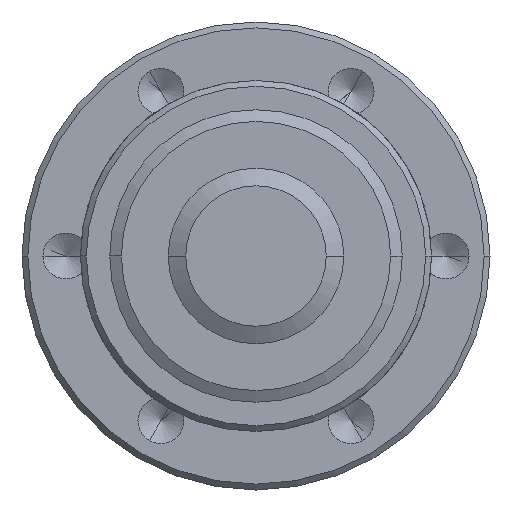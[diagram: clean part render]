
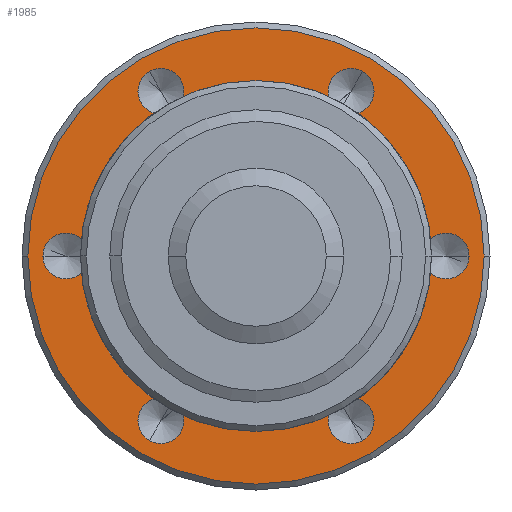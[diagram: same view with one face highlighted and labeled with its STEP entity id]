
A CAD part, left-side view. The second image highlights one B-rep face of the part: STEP entity #1985.
In plain terms, the highlighted planar face has unit normal (-1, 0, 0).
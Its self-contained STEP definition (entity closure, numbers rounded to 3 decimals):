
#97=CARTESIAN_POINT('',(0.,0.,0.));
#98=DIRECTION('',(-1.,0.,0.));
#99=DIRECTION('',(0.,1.,0.));
#100=AXIS2_PLACEMENT_3D('',#97,#98,#99);
#105=CARTESIAN_POINT('',(0.,0.,0.));
#106=DIRECTION('',(-1.,0.,0.));
#107=DIRECTION('',(0.,-1.,0.));
#108=AXIS2_PLACEMENT_3D('',#105,#106,#107);
#113=CARTESIAN_POINT('',(0.,3.25,-5.629));
#114=DIRECTION('',(1.,0.,0.));
#115=DIRECTION('',(0.,-0.5,0.866));
#116=AXIS2_PLACEMENT_3D('',#113,#114,#115);
#121=CARTESIAN_POINT('',(0.,3.25,-5.629));
#122=DIRECTION('',(1.,0.,0.));
#123=DIRECTION('',(0.,0.5,-0.866));
#124=AXIS2_PLACEMENT_3D('',#121,#122,#123);
#129=CARTESIAN_POINT('',(0.,-3.25,-5.629));
#130=DIRECTION('',(1.,0.,0.));
#131=DIRECTION('',(0.,0.5,0.866));
#132=AXIS2_PLACEMENT_3D('',#129,#130,#131);
#137=CARTESIAN_POINT('',(0.,-3.25,-5.629));
#138=DIRECTION('',(1.,0.,0.));
#139=DIRECTION('',(0.,-0.5,-0.866));
#140=AXIS2_PLACEMENT_3D('',#137,#138,#139);
#145=CARTESIAN_POINT('',(0.,-6.5,0.));
#146=DIRECTION('',(1.,0.,0.));
#147=DIRECTION('',(0.,1.,0.));
#148=AXIS2_PLACEMENT_3D('',#145,#146,#147);
#153=CARTESIAN_POINT('',(0.,-6.5,0.));
#154=DIRECTION('',(1.,0.,0.));
#155=DIRECTION('',(0.,-1.,0.));
#156=AXIS2_PLACEMENT_3D('',#153,#154,#155);
#161=CARTESIAN_POINT('',(0.,-3.25,5.629));
#162=DIRECTION('',(1.,0.,0.));
#163=DIRECTION('',(0.,0.5,-0.866));
#164=AXIS2_PLACEMENT_3D('',#161,#162,#163);
#169=CARTESIAN_POINT('',(0.,-3.25,5.629));
#170=DIRECTION('',(1.,0.,0.));
#171=DIRECTION('',(0.,-0.5,0.866));
#172=AXIS2_PLACEMENT_3D('',#169,#170,#171);
#177=CARTESIAN_POINT('',(0.,3.25,5.629));
#178=DIRECTION('',(1.,0.,0.));
#179=DIRECTION('',(0.,-0.5,-0.866));
#180=AXIS2_PLACEMENT_3D('',#177,#178,#179);
#185=CARTESIAN_POINT('',(0.,3.25,5.629));
#186=DIRECTION('',(1.,0.,0.));
#187=DIRECTION('',(0.,0.5,0.866));
#188=AXIS2_PLACEMENT_3D('',#185,#186,#187);
#193=CARTESIAN_POINT('',(0.,6.5,0.));
#194=DIRECTION('',(1.,0.,0.));
#195=DIRECTION('',(0.,-1.,0.));
#196=AXIS2_PLACEMENT_3D('',#193,#194,#195);
#201=CARTESIAN_POINT('',(0.,6.5,0.));
#202=DIRECTION('',(1.,0.,0.));
#203=DIRECTION('',(0.,1.,0.));
#204=AXIS2_PLACEMENT_3D('',#201,#202,#203);
#1087=CARTESIAN_POINT('',(0.,0.,0.));
#1088=DIRECTION('',(1.,0.,0.));
#1089=DIRECTION('',(0.,1.,0.));
#1090=AXIS2_PLACEMENT_3D('',#1087,#1088,#1089);
#1102=CARTESIAN_POINT('',(0.,0.,0.));
#1103=DIRECTION('',(-1.,0.,0.));
#1104=DIRECTION('',(0.,1.,0.));
#1105=AXIS2_PLACEMENT_3D('',#1102,#1103,#1104);
#1642=CARTESIAN_POINT('',(0.,5.715,0.));
#1643=CARTESIAN_POINT('',(0.,7.285,0.));
#1644=VERTEX_POINT('',#1642);
#1645=VERTEX_POINT('',#1643);
#1652=CARTESIAN_POINT('',(0.,2.858,4.949));
#1653=CARTESIAN_POINT('',(0.,3.643,6.309));
#1654=VERTEX_POINT('',#1652);
#1655=VERTEX_POINT('',#1653);
#1662=CARTESIAN_POINT('',(0.,-2.858,4.949));
#1663=CARTESIAN_POINT('',(0.,-3.643,6.309));
#1664=VERTEX_POINT('',#1662);
#1665=VERTEX_POINT('',#1663);
#1672=CARTESIAN_POINT('',(0.,-5.715,0.));
#1673=CARTESIAN_POINT('',(0.,-7.285,0.));
#1674=VERTEX_POINT('',#1672);
#1675=VERTEX_POINT('',#1673);
#1682=CARTESIAN_POINT('',(0.,-2.858,-4.949));
#1683=CARTESIAN_POINT('',(0.,-3.643,-6.309));
#1684=VERTEX_POINT('',#1682);
#1685=VERTEX_POINT('',#1683);
#1692=CARTESIAN_POINT('',(0.,2.858,-4.949));
#1693=CARTESIAN_POINT('',(0.,3.643,-6.309));
#1694=VERTEX_POINT('',#1692);
#1695=VERTEX_POINT('',#1693);
#1696=CARTESIAN_POINT('',(0.,7.8,0.));
#1697=CARTESIAN_POINT('',(0.,-7.8,0.));
#1698=VERTEX_POINT('',#1696);
#1699=VERTEX_POINT('',#1697);
#1732=CARTESIAN_POINT('',(0.,5.,0.));
#1734=VERTEX_POINT('',#1732);
#1740=CARTESIAN_POINT('',(0.,-5.,0.));
#1742=VERTEX_POINT('',#1740);
#1933=CARTESIAN_POINT('',(0.,0.,0.));
#1934=DIRECTION('',(-1.,0.,0.));
#1935=DIRECTION('',(0.,1.,0.));
#1936=AXIS2_PLACEMENT_3D('',#1933,#1934,#1935);
#1937=PLANE('',#1936);
#1938=ORIENTED_EDGE('',*,*,#1911,.F.);
#1940=ORIENTED_EDGE('',*,*,#1939,.F.);
#1941=EDGE_LOOP('',(#1938,#1940));
#1942=FACE_OUTER_BOUND('',#1941,.F.);
#1944=ORIENTED_EDGE('',*,*,#1943,.F.);
#1946=ORIENTED_EDGE('',*,*,#1945,.F.);
#1947=EDGE_LOOP('',(#1944,#1946));
#1948=FACE_BOUND('',#1947,.F.);
#1950=ORIENTED_EDGE('',*,*,#1949,.F.);
#1952=ORIENTED_EDGE('',*,*,#1951,.F.);
#1953=EDGE_LOOP('',(#1950,#1952));
#1954=FACE_BOUND('',#1953,.F.);
#1956=ORIENTED_EDGE('',*,*,#1955,.F.);
#1958=ORIENTED_EDGE('',*,*,#1957,.F.);
#1959=EDGE_LOOP('',(#1956,#1958));
#1960=FACE_BOUND('',#1959,.F.);
#1962=ORIENTED_EDGE('',*,*,#1961,.F.);
#1964=ORIENTED_EDGE('',*,*,#1963,.F.);
#1965=EDGE_LOOP('',(#1962,#1964));
#1966=FACE_BOUND('',#1965,.F.);
#1968=ORIENTED_EDGE('',*,*,#1967,.F.);
#1970=ORIENTED_EDGE('',*,*,#1969,.F.);
#1971=EDGE_LOOP('',(#1968,#1970));
#1972=FACE_BOUND('',#1971,.F.);
#1974=ORIENTED_EDGE('',*,*,#1973,.F.);
#1976=ORIENTED_EDGE('',*,*,#1975,.F.);
#1977=EDGE_LOOP('',(#1974,#1976));
#1978=FACE_BOUND('',#1977,.F.);
#1980=ORIENTED_EDGE('',*,*,#1979,.F.);
#1982=ORIENTED_EDGE('',*,*,#1981,.T.);
#1983=EDGE_LOOP('',(#1980,#1982));
#1984=FACE_BOUND('',#1983,.F.);
#1985=ADVANCED_FACE('',(#1942,#1948,#1954,#1960,#1966,#1972,#1978,#1984),#1937,
.T.);
#101=CIRCLE('',#100,7.8);
#109=CIRCLE('',#108,7.8);
#117=CIRCLE('',#116,0.785);
#125=CIRCLE('',#124,0.785);
#133=CIRCLE('',#132,0.785);
#141=CIRCLE('',#140,0.785);
#149=CIRCLE('',#148,0.785);
#157=CIRCLE('',#156,0.785);
#165=CIRCLE('',#164,0.785);
#173=CIRCLE('',#172,0.785);
#181=CIRCLE('',#180,0.785);
#189=CIRCLE('',#188,0.785);
#197=CIRCLE('',#196,0.785);
#205=CIRCLE('',#204,0.785);
#1091=CIRCLE('',#1090,5.);
#1106=CIRCLE('',#1105,5.);
#1911=EDGE_CURVE('',#1698,#1699,#101,.T.);
#1939=EDGE_CURVE('',#1699,#1698,#109,.T.);
#1943=EDGE_CURVE('',#1694,#1695,#117,.T.);
#1945=EDGE_CURVE('',#1695,#1694,#125,.T.);
#1949=EDGE_CURVE('',#1684,#1685,#133,.T.);
#1951=EDGE_CURVE('',#1685,#1684,#141,.T.);
#1955=EDGE_CURVE('',#1674,#1675,#149,.T.);
#1957=EDGE_CURVE('',#1675,#1674,#157,.T.);
#1961=EDGE_CURVE('',#1664,#1665,#165,.T.);
#1963=EDGE_CURVE('',#1665,#1664,#173,.T.);
#1967=EDGE_CURVE('',#1654,#1655,#181,.T.);
#1969=EDGE_CURVE('',#1655,#1654,#189,.T.);
#1973=EDGE_CURVE('',#1644,#1645,#197,.T.);
#1975=EDGE_CURVE('',#1645,#1644,#205,.T.);
#1979=EDGE_CURVE('',#1734,#1742,#1091,.T.);
#1981=EDGE_CURVE('',#1734,#1742,#1106,.T.);
